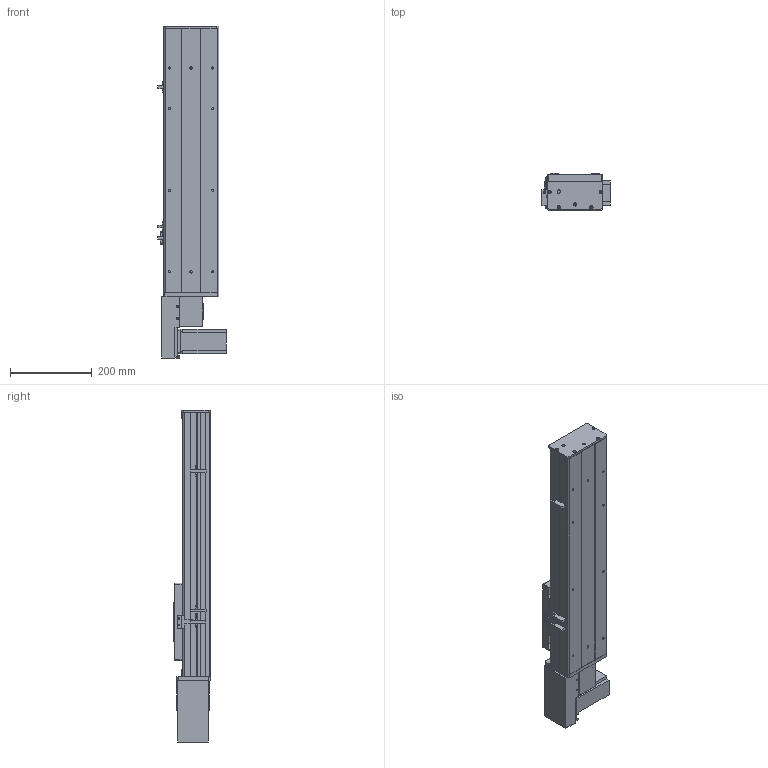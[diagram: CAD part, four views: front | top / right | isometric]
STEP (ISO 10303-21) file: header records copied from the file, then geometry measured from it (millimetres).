
FILE_DESCRIPTION (( 'STEP AP203' ), '1' );
FILE_NAME ('Y135CB-D90-S350-BR-P400W.STEP', '2020-02-18T02:10:27', ( '微软用户' ), ( '微软中国' ), 'SwSTEP 2.0', 'SolidWorks 2017', '' );
FILE_SCHEMA (( 'CONFIG_CONTROL_DESIGN' ));
Length unit declared in the file: millimetre
Products named in the file (18): 0B-源倛裔啣; 0B-萇儂楊擘啣; san松下电机400不带刹车----; Y135CB-耜裔; 5C--俋欶; 5CB --掛极耜裔啣-; 135CB---遴掛极.-; C-雄赽釱--; C-詩湍揤踡え-陔; 35CB---喘謫眊楊擘啣; Y10B--々湍喘謫眊--666; 135CB--詩湍-CE; Y10B-耜蚾蟀諉啣----; Y135CB-D90-S350-BR-P400W; Y100-135俋离換覜ん--; Y俋欶BR----; Y135C-陔俋离換覜結え-; 0B-埴倛裔啣
Assembly tree (21 placements, depth 2):
  Y135CB-D90-S350-BR-P400W
    Y135CB-耜裔
    135CB---遴掛极.-
    35CB---喘謫眊楊擘啣
    Y10B-耜蚾蟀諉啣----
    Y俋欶BR----
    0B-埴倛裔啣
    0B-源倛裔啣
    0B-萇儂楊擘啣
    san松下电机400不带刹车----
    5CB --掛极耜裔啣-  x2
    C-詩湍揤踡え-陔  x2
    135CB--詩湍-CE
    Y100-135俋离換覜ん--  x3
    Y135C-陔俋离換覜結え-
    5C--俋欶
    C-雄赽釱--
    Y10B--々湍喘謫眊--666
Bounding box: 167.5 x 91 x 814.5 mm (x, y, z)
Volume: 2699253.1 mm3; surface area: 1039711.9 mm2
Topology: 21 solids, 21 shells, 933 faces, 2473 edges, 1638 vertices
Faces by surface type: cylinder 459, plane 458, cone 16
Entity records: 28735 total; most frequent: DIRECTION 4769, CARTESIAN_POINT 4680, ORIENTED_EDGE 4422, EDGE_CURVE 2211, AXIS2_PLACEMENT_3D 1731, VERTEX_POINT 1466, VECTOR 1307, LINE 1307
